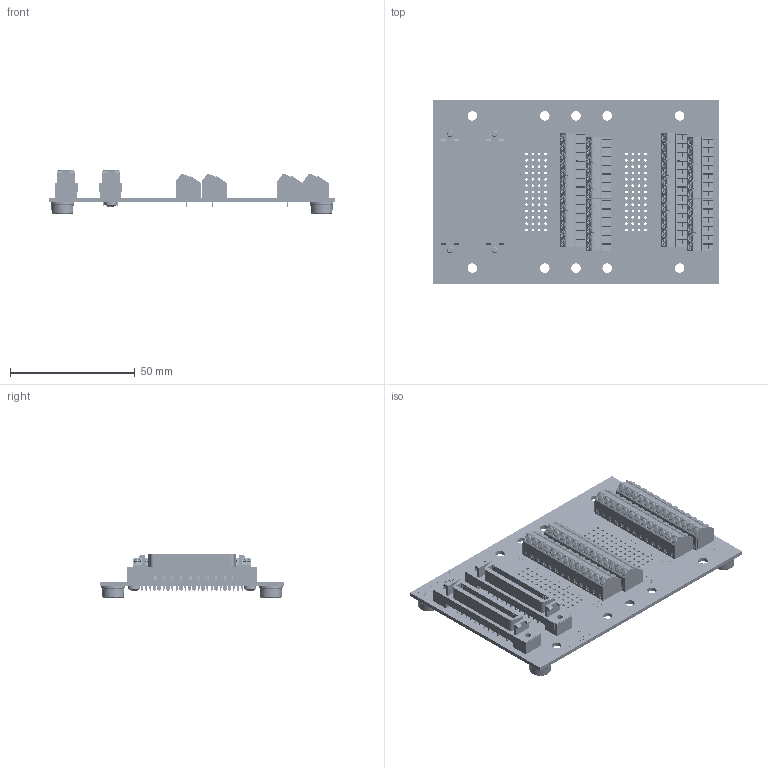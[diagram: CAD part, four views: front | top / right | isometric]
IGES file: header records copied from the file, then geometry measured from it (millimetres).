
Start section: SolidWorks IGES file using analytic representation for surfaces
Global section: file name: C:\Users\Jonny\Documents\Winford Engineering Jobs\BRKARMC50FFS\brkarmc50ff-s-ft_rev_a.igs; native system: SolidWorks 2017; preprocessor: SolidWorks 2017; author: Jonny; date: 180715.231255; units: inch
Bounding box: 114.3 x 73.66 x 17.59 mm (x, y, z)
Surface area: 41364.8 mm2 (no closed solid volume)
Topology: 0 solids, 0 shells, 9260 faces, 62672 edges, 62568 vertices
Faces by surface type: bspline 7902, revolution 1358
